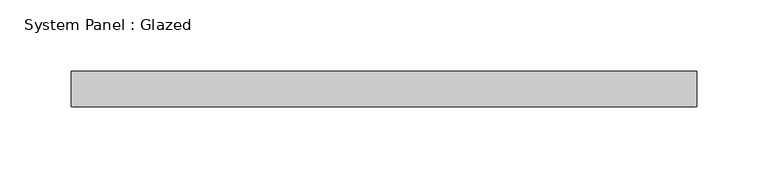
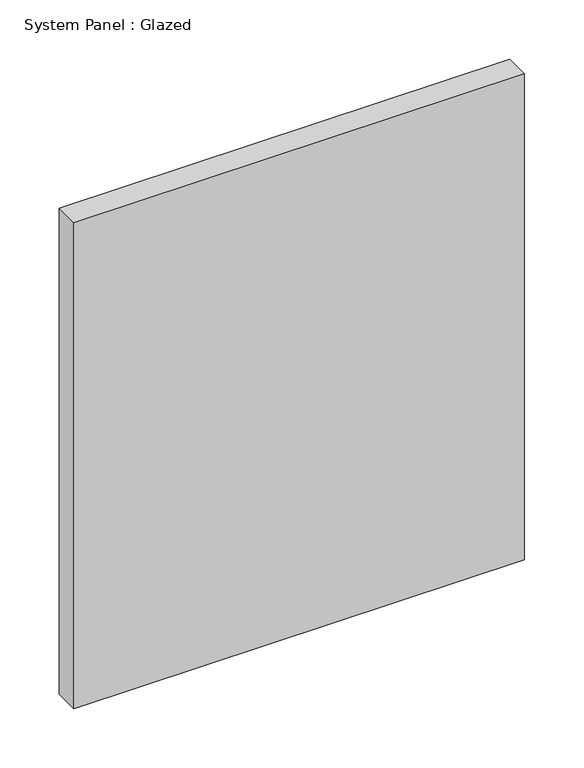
"""IFC4 building model written with IfcOpenShell, lengths in millimetres: plate geometry, System Panel : Glazed."""

from ifc_helpers import new_model, si_unit, origin, origin_with_axes, place, context, project, spatial, polyline, outline, extrude, source, transform, mapped, element, save


def system_panel_glazed_902a8636(model_context):
    return source(origin(), model_context, "Body", "SweptSolid", [
        extrude(outline(polyline([(220.0, 24.5), (-220.0, 24.5), (-220.0, 49.5), (220.0, 49.5), (220.0, 24.5)])), origin_with_axes(), (0.0, 0.0, 1.0), 501.7028746),
    ])


if __name__ == "__main__":
    model = new_model("IFC4")
    model_context = context("Model", 3, world=origin())
    ifc_project = project(units=[si_unit("LENGTHUNIT", "METRE", prefix="MILLI")], contexts=[model_context])
    site = spatial("IfcSite", under=ifc_project)
    building = spatial("IfcBuilding", under=site)
    placement = place(None, origin())
    system_panel_glazed_shape = system_panel_glazed_902a8636(model_context)
    element("IfcPlate", 1, ObjectType="System Panel : Glazed", at=placement, inside=building, context=model_context, shape_type="MappedRepresentation", body=[
        mapped(system_panel_glazed_shape, transform((0.0, 0.0, 0.0), x_axis=(1.0, 0.0, 0.0), y_axis=(0.0, 1.0, 0.0), z_axis=(0.0, 0.0, 1.0))),
    ])
    save(model, "model.ifc")
